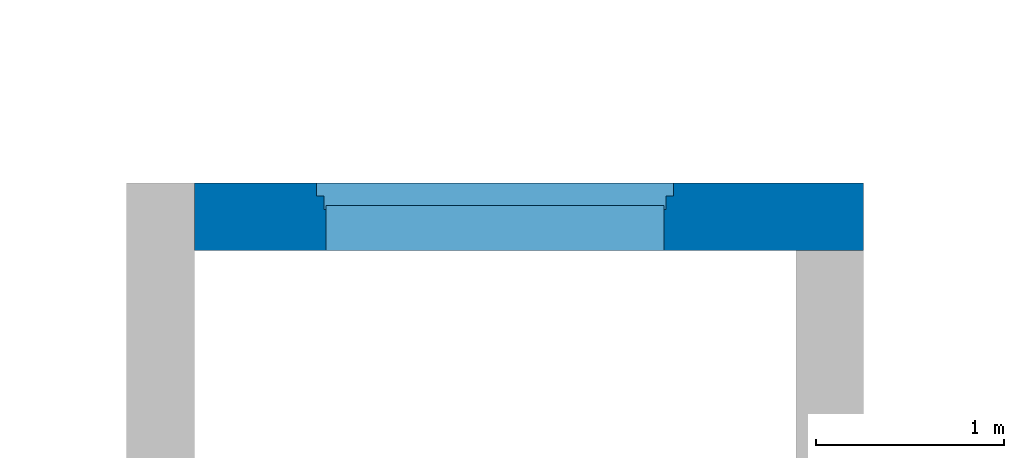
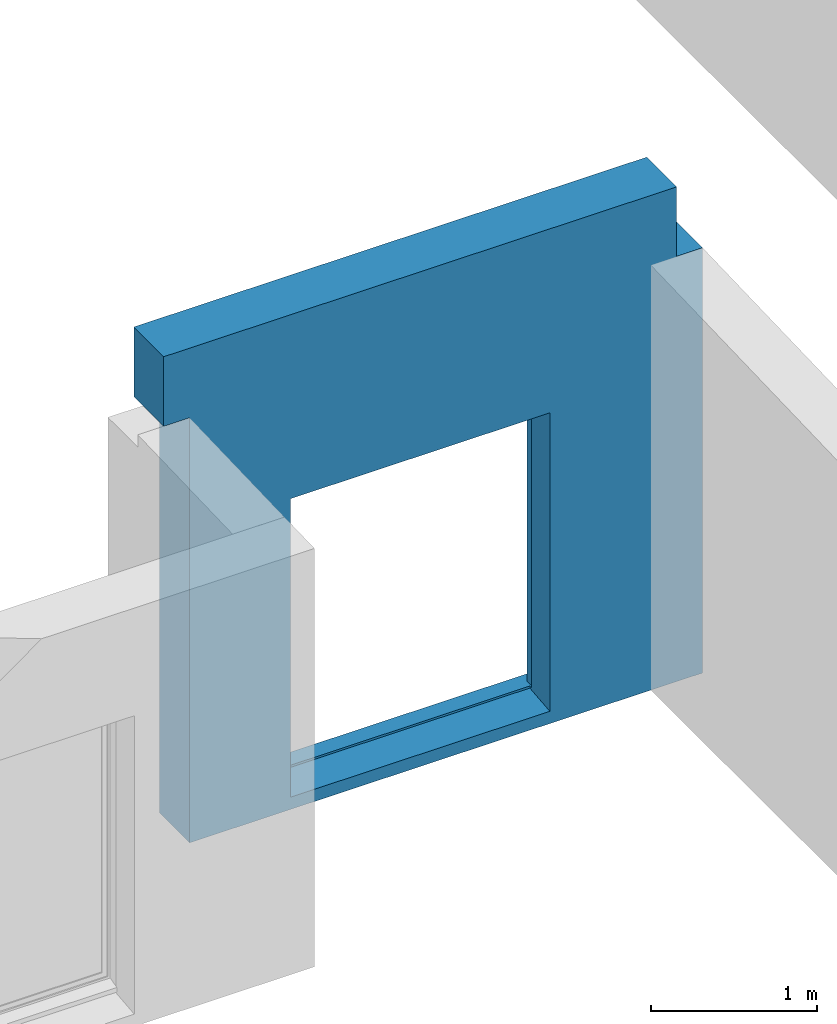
# One storey, part 6 of 8: 1 wall.
"""IFC2X3 building model written with IfcOpenShell, lengths in centimetres."""

from ifc_helpers import new_model, entity, si_unit, converted_unit, derived_unit, direction, frame, origin, place, context, subcontext, project, spatial, faceted_brep, material, layer, layer_set, type_object, element, save


model = new_model("IFC2X3")

# Units and contexts
model_context = context("Model", 3, precision=0.001, world=origin(), true_north=direction((6.123031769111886e-17, 1.0)))
body_context = subcontext(model_context, "Body", "Model", "MODEL_VIEW")
ifc_project = project(units=[si_unit("LENGTHUNIT", "METRE", prefix="CENTI"), si_unit("AREAUNIT", "SQUARE_METRE"), si_unit("VOLUMEUNIT", "CUBIC_METRE"), converted_unit("PLANEANGLEUNIT", "DEGREE", entity("IfcRatioMeasure", 0.017453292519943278), si_unit("PLANEANGLEUNIT", "RADIAN"), dimensions=[0, 0, 0, 0, 0, 0, 0]), si_unit("MASSUNIT", "GRAM", prefix="KILO"), derived_unit("MASSDENSITYUNIT", [(si_unit("MASSUNIT", "GRAM", prefix="KILO"), 1), (si_unit("LENGTHUNIT", "METRE"), -3)]), derived_unit("MOMENTOFINERTIAUNIT", [(si_unit("LENGTHUNIT", "METRE"), 4)]), si_unit("TIMEUNIT", "SECOND"), si_unit("FREQUENCYUNIT", "HERTZ"), si_unit("THERMODYNAMICTEMPERATUREUNIT", "DEGREE_CELSIUS"), derived_unit("THERMALTRANSMITTANCEUNIT", [(si_unit("MASSUNIT", "GRAM", prefix="KILO"), 1), (si_unit("THERMODYNAMICTEMPERATUREUNIT", "KELVIN"), -1), (si_unit("TIMEUNIT", "SECOND"), -3)]), derived_unit("THERMALCONDUCTANCEUNIT", [(si_unit("MASSUNIT", "GRAM", prefix="KILO"), 1), (si_unit("LENGTHUNIT", "METRE"), 1), (si_unit("THERMODYNAMICTEMPERATUREUNIT", "KELVIN"), -1), (si_unit("TIMEUNIT", "SECOND"), -3)]), derived_unit("VOLUMETRICFLOWRATEUNIT", [(si_unit("LENGTHUNIT", "METRE"), 3), (si_unit("TIMEUNIT", "SECOND"), -1)]), derived_unit("MASSFLOWRATEUNIT", [(si_unit("MASSUNIT", "GRAM", prefix="KILO"), 1), (si_unit("TIMEUNIT", "SECOND"), -1)]), derived_unit("ROTATIONALFREQUENCYUNIT", [(si_unit("TIMEUNIT", "SECOND"), -1)]), si_unit("ELECTRICCURRENTUNIT", "AMPERE"), si_unit("ELECTRICVOLTAGEUNIT", "VOLT"), si_unit("POWERUNIT", "WATT"), si_unit("FORCEUNIT", "NEWTON", prefix="KILO"), si_unit("ILLUMINANCEUNIT", "LUX"), si_unit("LUMINOUSFLUXUNIT", "LUMEN"), si_unit("LUMINOUSINTENSITYUNIT", "CANDELA"), derived_unit("USERDEFINED", [(si_unit("MASSUNIT", "GRAM", prefix="KILO"), -1), (si_unit("LENGTHUNIT", "METRE"), -2), (si_unit("TIMEUNIT", "SECOND"), 3), (si_unit("LUMINOUSFLUXUNIT", "LUMEN"), 1)]), derived_unit("USERDEFINED", [(si_unit("MASSUNIT", "GRAM", prefix="KILO"), 1), (si_unit("LENGTHUNIT", "METRE"), 3), (si_unit("TIMEUNIT", "SECOND"), -3), (si_unit("ELECTRICCURRENTUNIT", "AMPERE"), -2)]), derived_unit("USERDEFINED", [(si_unit("LENGTHUNIT", "METRE"), 2), (si_unit("TIMEUNIT", "SECOND"), -2)]), derived_unit("SOUNDPOWERUNIT", [(si_unit("MASSUNIT", "GRAM", prefix="KILO"), 1), (si_unit("LENGTHUNIT", "METRE"), 2), (si_unit("TIMEUNIT", "SECOND"), -3)]), derived_unit("SOUNDPRESSUREUNIT", [(si_unit("MASSUNIT", "GRAM", prefix="KILO"), 1), (si_unit("LENGTHUNIT", "METRE"), -1), (si_unit("TIMEUNIT", "SECOND"), -2)]), derived_unit("LINEARVELOCITYUNIT", [(si_unit("LENGTHUNIT", "METRE"), 1), (si_unit("TIMEUNIT", "SECOND"), -1)]), si_unit("PRESSUREUNIT", "PASCAL"), derived_unit("USERDEFINED", [(si_unit("LENGTHUNIT", "METRE"), -2), (si_unit("MASSUNIT", "GRAM", prefix="KILO"), 1), (si_unit("TIMEUNIT", "SECOND"), -2)]), derived_unit("LINEARFORCEUNIT", [(si_unit("MASSUNIT", "GRAM", prefix="KILO"), 1), (si_unit("LENGTHUNIT", "METRE"), 1), (si_unit("TIMEUNIT", "SECOND"), -2), (si_unit("LENGTHUNIT", "METRE"), -1)]), derived_unit("PLANARFORCEUNIT", [(si_unit("MASSUNIT", "GRAM", prefix="KILO"), 1), (si_unit("LENGTHUNIT", "METRE"), 1), (si_unit("TIMEUNIT", "SECOND"), -2), (si_unit("LENGTHUNIT", "METRE"), -2)]), derived_unit("SPECIFICHEATCAPACITYUNIT", [(si_unit("LENGTHUNIT", "METRE"), 2), (si_unit("TIMEUNIT", "SECOND"), -2), (si_unit("THERMODYNAMICTEMPERATUREUNIT", "KELVIN"), -1)]), derived_unit("VAPORPERMEABILITYUNIT", [(si_unit("TIMEUNIT", "SECOND"), 1), (si_unit("LENGTHUNIT", "METRE"), -1)]), derived_unit("DYNAMICVISCOSITYUNIT", [(si_unit("MASSUNIT", "GRAM", prefix="KILO"), 1), (si_unit("LENGTHUNIT", "METRE"), -1), (si_unit("TIMEUNIT", "SECOND"), -1)]), derived_unit("THERMALEXPANSIONCOEFFICIENTUNIT", [(si_unit("THERMODYNAMICTEMPERATUREUNIT", "KELVIN"), -1)])], contexts=[model_context])

# Site, building, storey
site_placement = place(None, origin())
site = spatial("IfcSite", under=ifc_project, at=site_placement, Name="Default", CompositionType="ELEMENT")
building_placement = place(site_placement, origin())
building = spatial("IfcBuilding", under=site, at=building_placement, CompositionType="ELEMENT")
storey_placement = place(building_placement, frame((0.0, 0.0, -13.0)))
storey = spatial("IfcBuildingStorey", under=building, at=storey_placement, Name="0_-0.13", CompositionType="ELEMENT", Elevation=-13.000000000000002)

# Wall
ifc_material_1 = material(Name="Maçonnerie - Enduit")
ifc_layer_1 = layer(ifc_material_1, 2.0)
ifc_material_2 = material(Name="Maçonnerie - Béton")
ifc_layer_2 = layer(ifc_material_2, 20.0)
ifc_material_3 = material(Name="Mur par défaut")
ifc_layer_3 = layer(ifc_material_3, 14.0)
ifc_layer_set = layer_set([ifc_layer_1, ifc_layer_2, ifc_layer_3], Name="Mur de base:Mur extérieur 36cm")
wall_type = type_object("IfcWallType", Name="Mur de base:Mur extérieur 36cm", PredefinedType="STANDARD", material=ifc_layer_set)
wall_placement = place(storey_placement, frame((-310.0684437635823, -503.3533541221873, 0.0)))
element("IfcWall", 1, at=wall_placement, inside=storey, type_object=wall_type, Name="Mur de base:Mur extérieur 36cm", ObjectType="Mur de base:Mur extérieur 36cm", context=body_context, shape_type="Brep", body=[
    faceted_brep([(18.0, -18.0, 0.0), (338.0, -18.0, 0.0), (374.0, -18.0, 0.0), (374.0, -18.0, 311.99444598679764), (356.0, -18.0, 311.99444598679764), (356.0, -18.0, 363.0), (0.0, -18.0, 363.0), (0.0, -18.0, 311.99444598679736), (18.0, -18.0, 311.99444598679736), (268.0, -18.0, 228.0), (268.0, -18.0, 8.977498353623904), (88.0, -18.0, 8.97749835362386), (88.0, -18.0, 228.0), (374.0, 18.0, 0.0), (18.0, 18.0, 0.0), (18.0, 18.0, 303.0), (18.0, 18.0, 311.99444598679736), (0.0, 18.0, 311.99444598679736), (0.0, 18.0, 363.0), (356.0, 18.0, 363.0), (356.0, 18.0, 311.99444598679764), (374.0, 18.0, 311.99444598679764), (374.0, 18.0, 13.0), (88.0, 18.0, 13.0), (268.0, 18.0, 13.0), (273.0, 18.0, 13.0), (273.0, 18.0, 233.0), (83.0, 18.0, 233.0), (83.0, 18.0, 13.0), (268.0, 6.0, 13.0), (268.0, 6.0, 11.500000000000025), (268.0, 4.0, 228.0), (268.0, 4.0, 13.0), (88.0, 6.0, 11.500000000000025), (88.0, 6.0, 13.0), (88.0, 4.0, 13.0), (88.0, 4.0, 228.0), (269.0, 4.0, 13.0), (269.0, 11.0, 13.0), (273.0, 11.0, 13.0), (83.0, 11.0, 13.0), (87.0, 11.0, 13.0), (87.0, 4.0, 13.0), (273.0, 11.0, 233.0), (83.0, 11.0, 233.0), (269.0, 11.0, 229.0), (87.0, 11.0, 229.0), (269.0, 4.0, 229.0), (87.0, 4.0, 229.0)], [[[0, 1, 2, 3, 4, 5, 6, 7, 8], [9, 10, 11, 12]], [[13, 14, 15, 16, 17, 18, 19, 20, 21, 22], [23, 24, 25, 26, 27, 28]], [[2, 1, 0, 14, 13]], [[6, 5, 19, 18]], [[29, 30, 10, 9, 31, 32]], [[33, 34, 35, 36, 12, 11]], [[29, 32, 37, 38, 39, 25, 24, 23, 28, 40, 41, 42, 35, 34]], [[36, 31, 9, 12]], [[30, 33, 11, 10]], [[30, 29, 34, 33]], [[25, 39, 43, 26]], [[41, 40, 44, 43, 39, 38, 45, 46]], [[38, 37, 47, 45]], [[32, 31, 36, 35, 42, 48, 47, 37]], [[26, 43, 44, 27]], [[46, 45, 47, 48]], [[40, 28, 27, 44]], [[42, 41, 46, 48]], [[19, 5, 4, 20]], [[20, 4, 3, 21]], [[2, 13, 22, 21, 3]], [[6, 18, 17, 7]], [[7, 17, 16, 8]], [[14, 0, 8, 16, 15]]]),
])

save(model, "model.ifc")
